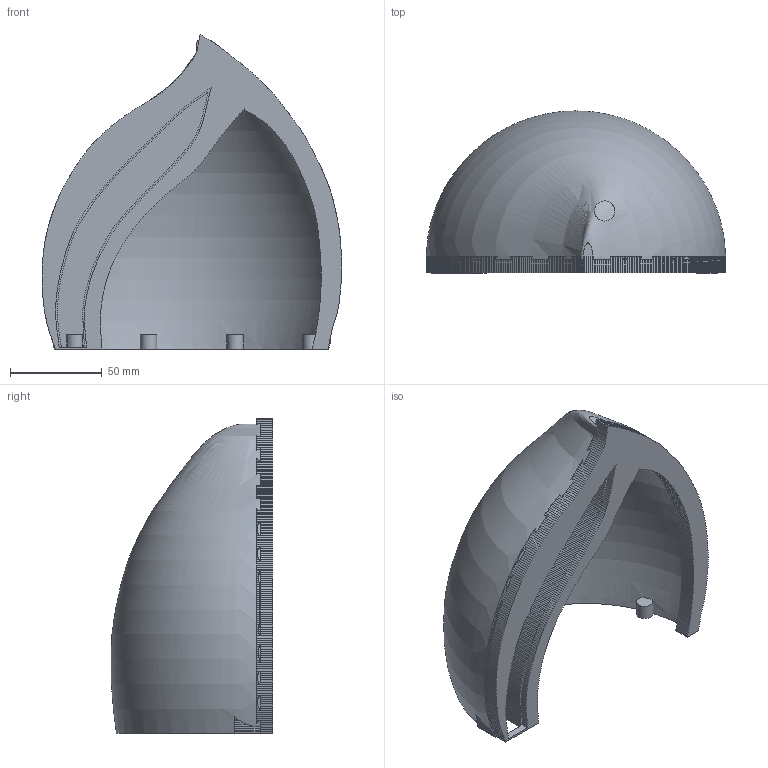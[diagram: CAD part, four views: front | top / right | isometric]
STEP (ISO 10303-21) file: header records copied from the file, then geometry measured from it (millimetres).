
FILE_DESCRIPTION(('Open CASCADE Model'),'2;1');
FILE_NAME('Open CASCADE Shape Model','2026-11-02T15:25:34',('Author'),( 'Open CASCADE'),'Open CASCADE STEP processor 7.9','Open CASCADE 7.9' ,'Unknown');
FILE_SCHEMA(('AUTOMOTIVE_DESIGN { 1 0 10303 214 1 1 1 1 }'));
Products named in the file (1): Open CASCADE STEP translator 7.9 2
Bounding box: 163.63 x 88.4 x 171.67 mm (x, y, z)
Volume: 182065 mm3; surface area: 107411 mm2
Topology: 1 solids, 1 shells, 1756 faces, 5185 edges, 3456 vertices
Faces by surface type: plane 1656, bspline 89, cylinder 11
Full cylindrical faces by diameter (mm): 4 x4, 4.1 x1, 11 x1
Entity records: 841782 total; most frequent: CARTESIAN_POINT 746620, DIRECTION 14709, LINE 11316, VECTOR 11316, ORIENTED_EDGE 10370, PCURVE 10370, DEFINITIONAL_REPRESENTATION 10370, EDGE_CURVE 5185
